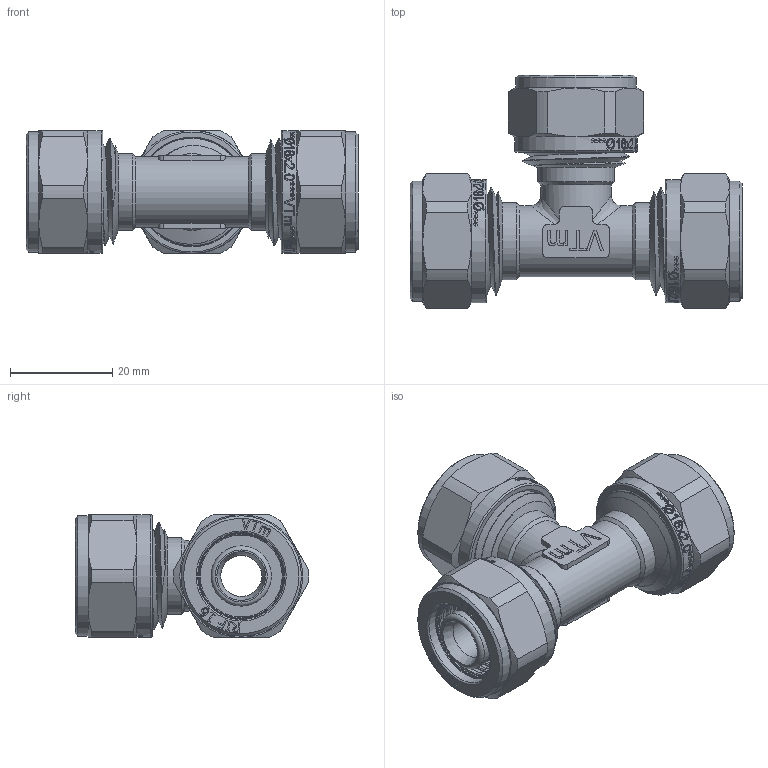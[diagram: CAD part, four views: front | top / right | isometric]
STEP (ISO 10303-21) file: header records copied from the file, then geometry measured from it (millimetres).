
FILE_DESCRIPTION(/* description */ (''),/* implementation_level */ '2;1');
FILE_NAME(/* name */ 'E:\Артём\00000\Работа удаленка\Обжимные фитинги\VTm.331.N.161616.stp',/* time_stamp */ '2020-06-30T12:53:17+03:00',/* author */ ('BeN_GaN'),/* organization */ (''),/* preprocessor_version */ 'ST-DEVELOPER v18',/* originating_system */ 'Autodesk Inventor 2020',/* authorisation */ '');
FILE_SCHEMA (('AUTOMOTIVE_DESIGN { 1 0 10303 214 3 1 1 }','AP242_MANAGED_MODEL_BASED_3D_ENGINEERING_MIM_LF { 1 0 10303 442 1 1 4 }'));
Products named in the file (1): VTm.331.N.161616
Bounding box: 64.8 x 45.59 x 24 mm (x, y, z)
Volume: 19185.1 mm3; surface area: 16816.1 mm2
Topology: 1 solids, 4 shells, 2014 faces, 5643 edges, 3799 vertices
Faces by surface type: bspline 1058, plane 586, cylinder 232, torus 75, cone 63
Full cylindrical faces by diameter (mm): 8 x2, 8.03 x1, 9.4 x6, 11.75 x12, 13.8 x2, 15 x3, 16 x12, 16.2 x3, 16.6 x15, 17 x3, 17.4 x6, 18.6 x6, 21 x1, 23.5 x3, 24 x3
Entity records: 86392 total; most frequent: CARTESIAN_POINT 41086, ORIENTED_EDGE 11288, DIRECTION 6223, EDGE_CURVE 5644, VERTEX_POINT 3800, LINE 2409, VECTOR 2409, B_SPLINE_CURVE_WITH_KNOTS 2213
